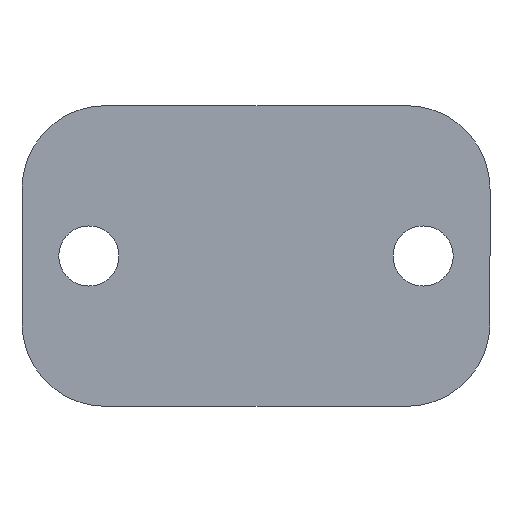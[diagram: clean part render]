
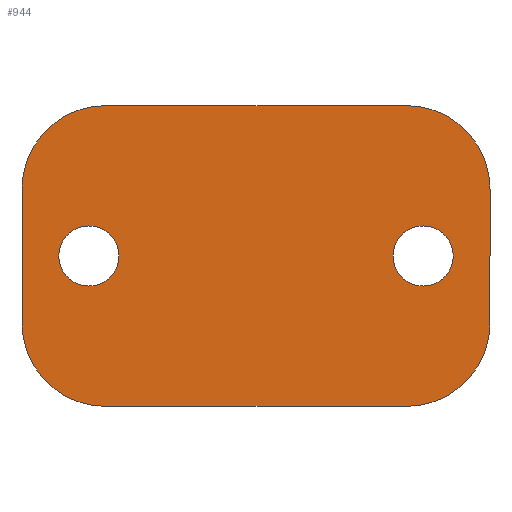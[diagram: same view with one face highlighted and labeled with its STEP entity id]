
A CAD part, front view. The second image highlights one B-rep face of the part: STEP entity #944.
In plain terms, the highlighted planar face has unit normal (0, -1, 0).
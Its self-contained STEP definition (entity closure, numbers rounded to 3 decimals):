
#32 = ORIENTED_EDGE ( 'NONE', *, *, #2900, .T. ) ;
#56 = AXIS2_PLACEMENT_3D ( 'NONE', #2391, #1970, #4624 ) ;
#78 = EDGE_CURVE ( 'NONE', #681, #4131, #5556, .T. ) ;
#137 = DIRECTION ( 'NONE',  ( 1., 0., 0. ) ) ;
#172 = CARTESIAN_POINT ( 'NONE',  ( 50., -20., 0. ) ) ;
#203 = CARTESIAN_POINT ( 'NONE',  ( -45., -20., -45. ) ) ;
#266 = DIRECTION ( 'NONE',  ( 0., -1., 0. ) ) ;
#287 = EDGE_CURVE ( 'NONE', #4131, #681, #5218, .T. ) ;
#291 = VERTEX_POINT ( 'NONE', #2470 ) ;
#356 = EDGE_CURVE ( 'NONE', #1010, #291, #2136, .T. ) ;
#415 = CARTESIAN_POINT ( 'NONE',  ( -59., -20., 0. ) ) ;
#479 = CARTESIAN_POINT ( 'NONE',  ( -45., -20., 45. ) ) ;
#480 = CARTESIAN_POINT ( 'NONE',  ( -45., -20., 45. ) ) ;
#567 = DIRECTION ( 'NONE',  ( 0., -1., 0. ) ) ;
#575 = CARTESIAN_POINT ( 'NONE',  ( -70., -20., 20. ) ) ;
#616 = CARTESIAN_POINT ( 'NONE',  ( -41., -20., 0. ) ) ;
#681 = VERTEX_POINT ( 'NONE', #3571 ) ;
#695 = ORIENTED_EDGE ( 'NONE', *, *, #1738, .T. ) ;
#753 = ORIENTED_EDGE ( 'NONE', *, *, #78, .F. ) ;
#809 = ORIENTED_EDGE ( 'NONE', *, *, #1648, .T. ) ;
#813 = FACE_BOUND ( 'NONE', #3853, .T. ) ;
#944 = ADVANCED_FACE ( 'NONE', ( #813, #2567, #2089 ), #5094, .T. ) ;
#1010 = VERTEX_POINT ( 'NONE', #2199 ) ;
#1051 = AXIS2_PLACEMENT_3D ( 'NONE', #172, #567, #1459 ) ;
#1119 = VERTEX_POINT ( 'NONE', #479 ) ;
#1279 = DIRECTION ( 'NONE',  ( -1., 0., 0. ) ) ;
#1321 = CARTESIAN_POINT ( 'NONE',  ( 45., -20., -20. ) ) ;
#1394 = DIRECTION ( 'NONE',  ( 1., 0., 0. ) ) ;
#1450 = CIRCLE ( 'NONE', #1895, 25. ) ;
#1459 = DIRECTION ( 'NONE',  ( 1., 0., 0. ) ) ;
#1497 = VERTEX_POINT ( 'NONE', #415 ) ;
#1545 = VECTOR ( 'NONE', #4246, 1000. ) ;
#1648 = EDGE_CURVE ( 'NONE', #5021, #3738, #3048, .T. ) ;
#1733 = CARTESIAN_POINT ( 'NONE',  ( 70., -20., 20. ) ) ;
#1738 = EDGE_CURVE ( 'NONE', #291, #1119, #4004, .T. ) ;
#1760 = DIRECTION ( 'NONE',  ( 0., -1., 0. ) ) ;
#1894 = EDGE_CURVE ( 'NONE', #3738, #2265, #4596, .T. ) ;
#1895 = AXIS2_PLACEMENT_3D ( 'NONE', #5270, #1760, #137 ) ;
#1970 = DIRECTION ( 'NONE',  ( 0., -1., 0. ) ) ;
#2072 = DIRECTION ( 'NONE',  ( 0., -1., 0. ) ) ;
#2089 = FACE_OUTER_BOUND ( 'NONE', #4392, .T. ) ;
#2136 = CIRCLE ( 'NONE', #5306, 25. ) ;
#2149 = VECTOR ( 'NONE', #2245, 1000. ) ;
#2192 = EDGE_CURVE ( 'NONE', #1497, #5165, #4245, .T. ) ;
#2199 = CARTESIAN_POINT ( 'NONE',  ( 70., -20., 20. ) ) ;
#2217 = VERTEX_POINT ( 'NONE', #2344 ) ;
#2245 = DIRECTION ( 'NONE',  ( 1., 0., 0. ) ) ;
#2265 = VERTEX_POINT ( 'NONE', #3783 ) ;
#2344 = CARTESIAN_POINT ( 'NONE',  ( -70., -20., -20. ) ) ;
#2391 = CARTESIAN_POINT ( 'NONE',  ( 50., -20., 0. ) ) ;
#2470 = CARTESIAN_POINT ( 'NONE',  ( 45., -20., 45. ) ) ;
#2482 = CARTESIAN_POINT ( 'NONE',  ( -70., -20., 20. ) ) ;
#2492 = DIRECTION ( 'NONE',  ( 0., 0., 1. ) ) ;
#2528 = AXIS2_PLACEMENT_3D ( 'NONE', #2689, #2072, #5516 ) ;
#2563 = ORIENTED_EDGE ( 'NONE', *, *, #2192, .F. ) ;
#2567 = FACE_BOUND ( 'NONE', #4529, .T. ) ;
#2571 = ORIENTED_EDGE ( 'NONE', *, *, #3000, .T. ) ;
#2611 = VECTOR ( 'NONE', #1279, 1000. ) ;
#2665 = CARTESIAN_POINT ( 'NONE',  ( 45., -20., 20. ) ) ;
#2689 = CARTESIAN_POINT ( 'NONE',  ( -45., -20., 20. ) ) ;
#2692 = ORIENTED_EDGE ( 'NONE', *, *, #5248, .T. ) ;
#2825 = DIRECTION ( 'NONE',  ( 1., 0., 0. ) ) ;
#2854 = ORIENTED_EDGE ( 'NONE', *, *, #1894, .T. ) ;
#2900 = EDGE_CURVE ( 'NONE', #2265, #1010, #5598, .T. ) ;
#2948 = DIRECTION ( 'NONE',  ( 0., -1., 0. ) ) ;
#3000 = EDGE_CURVE ( 'NONE', #2217, #5021, #1450, .T. ) ;
#3001 = DIRECTION ( 'NONE',  ( 0., -1., 0. ) ) ;
#3048 = LINE ( 'NONE', #4404, #2149 ) ;
#3183 = EDGE_CURVE ( 'NONE', #5165, #1497, #5587, .T. ) ;
#3194 = ORIENTED_EDGE ( 'NONE', *, *, #356, .T. ) ;
#3395 = CARTESIAN_POINT ( 'NONE',  ( 0., -20., 0. ) ) ;
#3426 = CARTESIAN_POINT ( 'NONE',  ( -50., -20., 0. ) ) ;
#3440 = ORIENTED_EDGE ( 'NONE', *, *, #287, .F. ) ;
#3550 = DIRECTION ( 'NONE',  ( 0., -1., 0. ) ) ;
#3571 = CARTESIAN_POINT ( 'NONE',  ( 59., -20., 0. ) ) ;
#3615 = AXIS2_PLACEMENT_3D ( 'NONE', #1321, #3001, #5532 ) ;
#3619 = AXIS2_PLACEMENT_3D ( 'NONE', #3426, #2948, #4252 ) ;
#3738 = VERTEX_POINT ( 'NONE', #4441 ) ;
#3757 = CARTESIAN_POINT ( 'NONE',  ( -50., -20., 0. ) ) ;
#3783 = CARTESIAN_POINT ( 'NONE',  ( 70., -20., -20. ) ) ;
#3790 = VECTOR ( 'NONE', #2492, 1000. ) ;
#3792 = DIRECTION ( 'NONE',  ( 1., 0., 0. ) ) ;
#3853 = EDGE_LOOP ( 'NONE', ( #4943, #2563 ) ) ;
#3936 = CARTESIAN_POINT ( 'NONE',  ( 41., -20., 0. ) ) ;
#4004 = LINE ( 'NONE', #480, #2611 ) ;
#4131 = VERTEX_POINT ( 'NONE', #3936 ) ;
#4245 = CIRCLE ( 'NONE', #4517, 9. ) ;
#4246 = DIRECTION ( 'NONE',  ( 0., 0., -1. ) ) ;
#4252 = DIRECTION ( 'NONE',  ( 1., 0., 0. ) ) ;
#4392 = EDGE_LOOP ( 'NONE', ( #2571, #809, #2854, #32, #3194, #695, #4673, #2692 ) ) ;
#4404 = CARTESIAN_POINT ( 'NONE',  ( -45., -20., -45. ) ) ;
#4441 = CARTESIAN_POINT ( 'NONE',  ( 45., -20., -45. ) ) ;
#4515 = VERTEX_POINT ( 'NONE', #575 ) ;
#4517 = AXIS2_PLACEMENT_3D ( 'NONE', #3757, #266, #2825 ) ;
#4529 = EDGE_LOOP ( 'NONE', ( #753, #3440 ) ) ;
#4596 = CIRCLE ( 'NONE', #3615, 25. ) ;
#4624 = DIRECTION ( 'NONE',  ( 1., 0., 0. ) ) ;
#4673 = ORIENTED_EDGE ( 'NONE', *, *, #5139, .T. ) ;
#4674 = AXIS2_PLACEMENT_3D ( 'NONE', #3395, #5554, #3792 ) ;
#4943 = ORIENTED_EDGE ( 'NONE', *, *, #3183, .F. ) ;
#4983 = CIRCLE ( 'NONE', #2528, 25. ) ;
#5021 = VERTEX_POINT ( 'NONE', #203 ) ;
#5093 = LINE ( 'NONE', #2482, #1545 ) ;
#5094 = PLANE ( 'NONE',  #4674 ) ;
#5139 = EDGE_CURVE ( 'NONE', #1119, #4515, #4983, .T. ) ;
#5165 = VERTEX_POINT ( 'NONE', #616 ) ;
#5218 = CIRCLE ( 'NONE', #56, 9. ) ;
#5248 = EDGE_CURVE ( 'NONE', #4515, #2217, #5093, .T. ) ;
#5270 = CARTESIAN_POINT ( 'NONE',  ( -45., -20., -20. ) ) ;
#5306 = AXIS2_PLACEMENT_3D ( 'NONE', #2665, #3550, #1394 ) ;
#5516 = DIRECTION ( 'NONE',  ( 1., 0., 0. ) ) ;
#5532 = DIRECTION ( 'NONE',  ( 1., 0., 0. ) ) ;
#5554 = DIRECTION ( 'NONE',  ( 0., -1., 0. ) ) ;
#5556 = CIRCLE ( 'NONE', #1051, 9. ) ;
#5587 = CIRCLE ( 'NONE', #3619, 9. ) ;
#5598 = LINE ( 'NONE', #1733, #3790 ) ;
